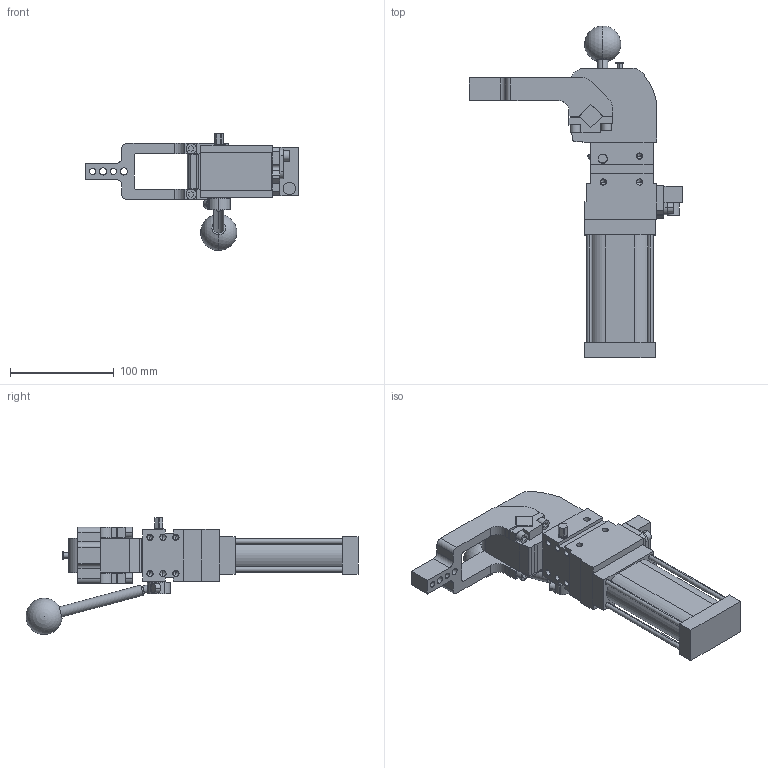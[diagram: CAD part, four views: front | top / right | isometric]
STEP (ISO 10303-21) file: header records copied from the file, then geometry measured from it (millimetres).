
FILE_DESCRIPTION (( 'STEP AP214' ), '1' );
FILE_NAME ('cplm40lbv1ci1g_108.STEP', '2021-05-25T12:18:16', ( '' ), ( '' ), 'SwSTEP 2.0', 'SolidWorks 2021', '' );
FILE_SCHEMA (( 'AUTOMOTIVE_DESIGN' ));
Length unit declared in the file: millimetre
Products named in the file (6): meccanica_cplm40; comando_manuale_cplm_40; leva_v1c_cpl40; blocchetto_VEP_0_cpl40; cplm40lbv1ci1g_108; piastra_blocchetto_cpl40
Assembly tree (5 placements, depth 2):
  cplm40lbv1ci1g_108
    meccanica_cplm40
    blocchetto_VEP_0_cpl40
    piastra_blocchetto_cpl40
    leva_v1c_cpl40
    comando_manuale_cplm_40
Bounding box: 205.5 x 319.99 x 112.66 mm (x, y, z)
Volume: 807121.3 mm3; surface area: 126816 mm2
Topology: 6 solids, 6 shells, 496 faces, 1276 edges, 807 vertices
Faces by surface type: plane 287, cylinder 161, cone 46, sphere 2
Entity records: 16384 total; most frequent: CARTESIAN_POINT 2655, DIRECTION 2611, ORIENTED_EDGE 2458, EDGE_CURVE 1229, AXIS2_PLACEMENT_3D 882, VECTOR 847, LINE 847, VERTEX_POINT 804
